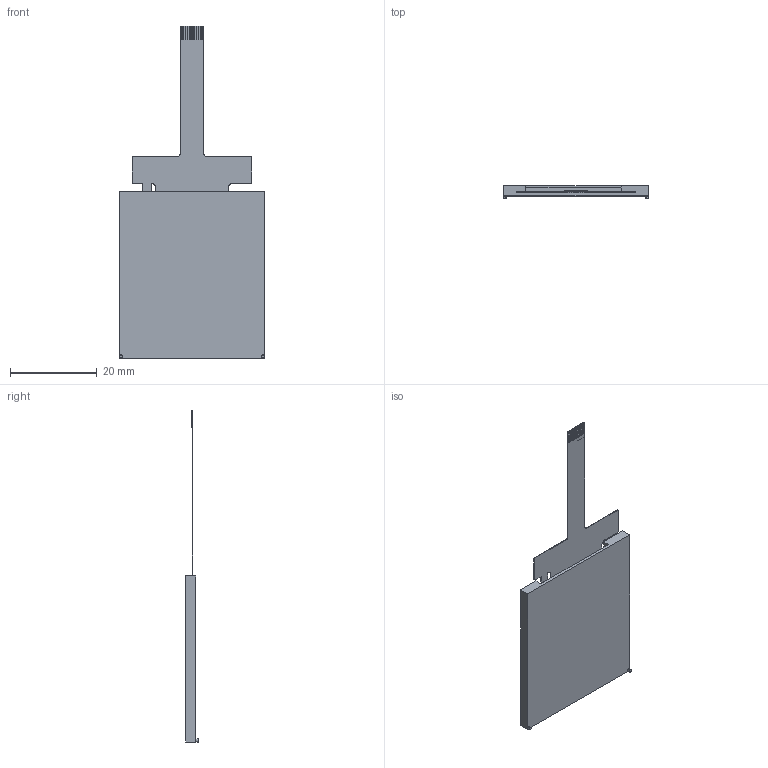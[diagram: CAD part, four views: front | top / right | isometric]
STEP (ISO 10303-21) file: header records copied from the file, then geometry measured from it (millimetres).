
FILE_DESCRIPTION (( 'STEP AP214' ), '1' );
FILE_NAME ('CFAF128128B1-0145T.STEP', '2019-08-09T21:14:14', ( '' ), ( '' ), 'SwSTEP 2.0', 'SolidWorks 2015', '' );
FILE_SCHEMA (( 'AUTOMOTIVE_DESIGN' ));
Length unit declared in the file: millimetre
Products named in the file (1): CFAF128128B1-0145T
Bounding box: 33.3 x 2.83 x 76.4 mm (x, y, z)
Volume: 2676.9 mm3; surface area: 4038.2 mm2
Topology: 3 solids, 3 shells, 127 faces, 347 edges, 228 vertices
Faces by surface type: plane 111, cylinder 16
Entity records: 5404 total; most frequent: CARTESIAN_POINT 703, ORIENTED_EDGE 694, DIRECTION 637, EDGE_CURVE 347, VECTOR 313, LINE 313, VERTEX_POINT 228, AXIS2_PLACEMENT_3D 162
